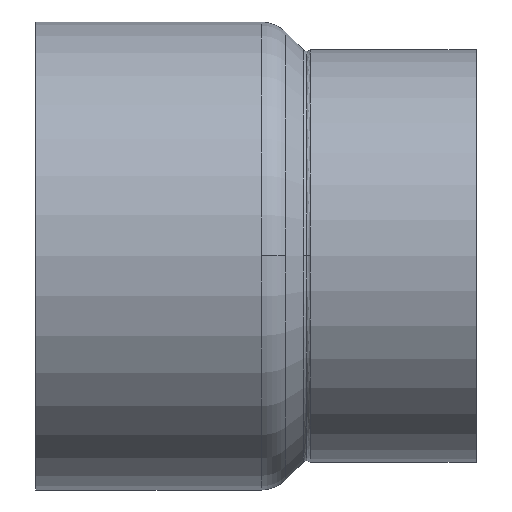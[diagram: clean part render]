
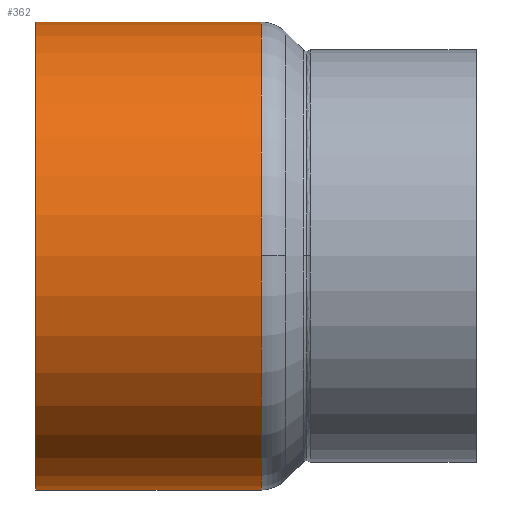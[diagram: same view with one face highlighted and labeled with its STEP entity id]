
A CAD part, top view. The second image highlights one B-rep face of the part: STEP entity #362.
In plain terms, the highlighted cylindrical face has radius 54 mm (diameter 108 mm), a partial arc.
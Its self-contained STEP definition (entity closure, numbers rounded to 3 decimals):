
#312=CARTESIAN_POINT('',(25.99,0.0,0.0));
#313=DIRECTION('',(1.0,0.0,0.0));
#314=DIRECTION('',(0.0,1.0,0.0));
#315=AXIS2_PLACEMENT_3D('',#312,#313,#314);
#316=CYLINDRICAL_SURFACE('',#315,54.0);
#317=CARTESIAN_POINT('',(0.0,54.0,0.0));
#318=VERTEX_POINT('',#317);
#319=CARTESIAN_POINT('',(51.98,54.0,0.0));
#320=VERTEX_POINT('',#319);
#321=CARTESIAN_POINT('',(0.0,54.0,0.0));
#322=DIRECTION('',(1.0,0.0,0.0));
#323=VECTOR('',#322,51.98);
#324=LINE('',#321,#323);
#325=EDGE_CURVE('',#318,#320,#324,.T.);
#326=ORIENTED_EDGE('',*,*,#325,.F.);
#327=CARTESIAN_POINT('',(0.0,-54.0,0.));
#328=VERTEX_POINT('',#327);
#329=CARTESIAN_POINT('',(0.0,0.0,0.0));
#330=DIRECTION('',(1.0,0.0,0.0));
#331=DIRECTION('',(0.0,1.0,0.0));
#332=AXIS2_PLACEMENT_3D('',#329,#330,#331);
#333=CIRCLE('',#332,54.0);
#334=EDGE_CURVE('',#318,#328,#333,.T.);
#335=ORIENTED_EDGE('',*,*,#334,.T.);
#336=CARTESIAN_POINT('',(51.98,-54.0,0.));
#337=VERTEX_POINT('',#336);
#338=CARTESIAN_POINT('',(51.98,-54.0,0.));
#339=DIRECTION('',(-1.0,0.0,0.0));
#340=VECTOR('',#339,51.98);
#341=LINE('',#338,#340);
#342=EDGE_CURVE('',#337,#328,#341,.T.);
#343=ORIENTED_EDGE('',*,*,#342,.F.);
#344=CARTESIAN_POINT('',(51.98,0.,54.0));
#345=VERTEX_POINT('',#344);
#346=CARTESIAN_POINT('',(51.98,0.0,0.0));
#347=DIRECTION('',(1.0,0.0,0.0));
#348=DIRECTION('',(0.0,1.0,0.0));
#349=AXIS2_PLACEMENT_3D('',#346,#347,#348);
#350=CIRCLE('',#349,54.0);
#351=EDGE_CURVE('',#345,#337,#350,.T.);
#352=ORIENTED_EDGE('',*,*,#351,.F.);
#353=CARTESIAN_POINT('',(51.98,0.0,0.0));
#354=DIRECTION('',(1.0,0.0,0.0));
#355=DIRECTION('',(0.0,1.0,0.0));
#356=AXIS2_PLACEMENT_3D('',#353,#354,#355);
#357=CIRCLE('',#356,54.0);
#358=EDGE_CURVE('',#320,#345,#357,.T.);
#359=ORIENTED_EDGE('',*,*,#358,.F.);
#360=EDGE_LOOP('',(#326,#335,#343,#352,#359));
#361=FACE_OUTER_BOUND('',#360,.T.);
#362=ADVANCED_FACE('',(#361),#316,.T.);
